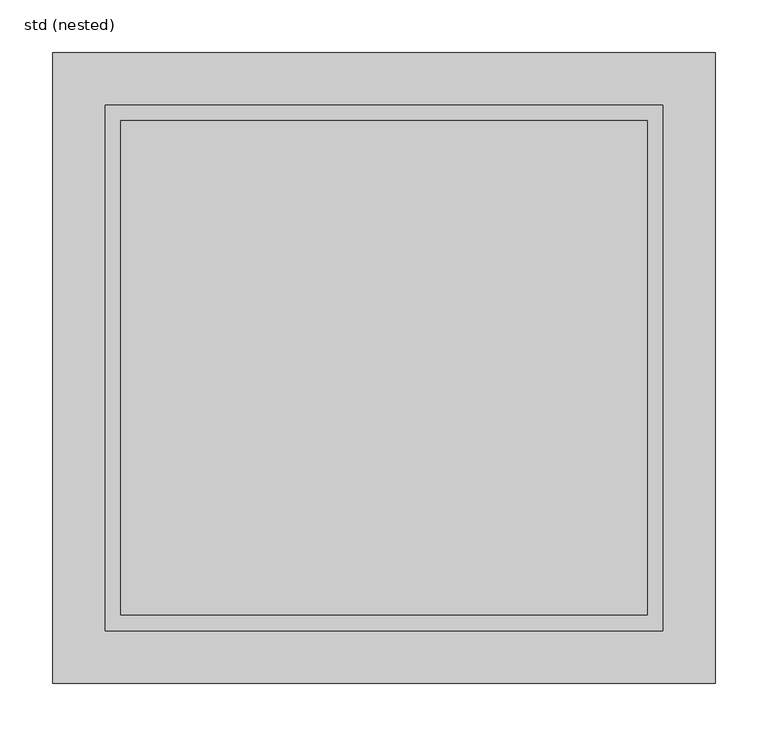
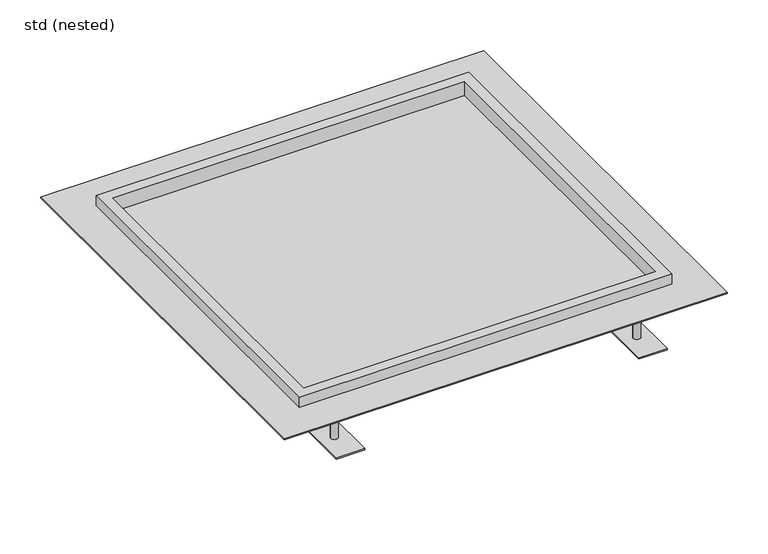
"""IFC4 building model written with IfcOpenShell, lengths in millimetres: sanitary terminal geometry, ZZZ_do not use_PF_ST_UN_custom hygienic box channel_ACO : std (nested)."""

from ifc_helpers import new_model, si_unit, point, frame, frame_2d, origin, place, context, project, spatial, polyline, circle_curve, trimmed, segment, composite_curve, outline, extrude, faceted_brep, source, transform, mapped, element, save
from ifc_brep_helpers import plane_surface, cylinder_surface, advanced_brep


def std_nested_4702d8b9(model_context):
    return source(origin(), model_context, "Body", "SolidModel", [
        extrude(outline(composite_curve([segment(polyline([(225.0, 232.5), (205.0, 232.5), (205.0, 250.0)]), True, "CONTINUOUS"), segment(trimmed(circle_curve(frame_2d((215.0, 250.0)), 10.0), [point((205.0, 250.0))], [point((225.0, 250.0))], False, "CARTESIAN"), True, "CONTINUOUS"), segment(polyline([(225.0, 250.0), (225.0, 232.5)]), True, "CONTINUOUS")], self_intersect=False), holes=[composite_curve([segment(trimmed(circle_curve(frame_2d((215.0, 250.0)), 5.0), [point((215.0, 245.0))], [point((215.0, 255.0))], True, "CARTESIAN"), True, "CONTINUOUS"), segment(trimmed(circle_curve(frame_2d((215.0, 250.0)), 5.0), [point((215.0, 255.0))], [point((215.0, 245.0))], True, "CARTESIAN"), True, "CONTINUOUS")], self_intersect=False)]), frame((0.0, 0.0, -37.0), z_axis=(0.0, 0.0, 1.0), x_axis=(1.0, 0.0, 0.0)), (0.0, 0.0, 1.0), 12.0),
        advanced_brep(
        [(210.0, 250.0, -31.0), (220.0, 250.0, -31.0), (235.0, 210.0, -79.5), (195.0, 210.0, -79.5), (195.0, 290.0, -79.5), (235.0, 290.0, -79.5), (220.0, 250.0, -77.5), (210.0, 250.0, -77.5), (235.0, 210.0, -77.5), (235.0, 290.0, -77.5), (195.0, 290.0, -77.5), (195.0, 210.0, -77.5)],
        [
            (0, 1, circle_curve(frame((215.0, 250.0, -31.0), z_axis=(0.0, 0.0, 1.0), x_axis=(1.0, 0.0, 0.0)), 5.0)),
            (1, 0, circle_curve(frame((215.0, 250.0, -31.0), z_axis=(0.0, 0.0, 1.0), x_axis=(1.0, 0.0, 0.0)), 5.0)),
            (2, 3),
            (3, 4),
            (4, 5),
            (5, 2),
            (1, 6),
            (6, 7, circle_curve(frame((215.0, 250.0, -77.5), z_axis=(0.0, 0.0, 1.0), x_axis=(1.0, 0.0, 0.0)), 5.0)),
            (7, 0),
            (7, 6, circle_curve(frame((215.0, 250.0, -77.5), z_axis=(0.0, 0.0, 1.0), x_axis=(1.0, 0.0, 0.0)), 5.0)),
            (8, 9),
            (9, 10),
            (10, 11),
            (11, 8),
            (11, 3),
            (2, 8),
            (10, 4),
            (9, 5),
        ],
        [
            plane_surface(frame((220.0, 250.0, -31.0), z_axis=(0.0, 0.0, 1.0), x_axis=(0.0, -1.0, 0.0))),
            plane_surface(frame((220.0, 250.0, -79.5), z_axis=(0.0, 0.0, -1.0), x_axis=(0.0, 1.0, 0.0))),
            cylinder_surface(frame((215.0, 250.0, -79.5), z_axis=(0.0, 0.0, 1.0), x_axis=(1.0, 0.0, 0.0)), 5.0),
            plane_surface(frame((195.0, 210.0, -77.5), z_axis=(0.0, 0.0, 1.0), x_axis=(-1.0, 0.0, 0.0))),
            plane_surface(frame((235.0, 210.0, -77.5), z_axis=(0.0, -1.0, 0.0), x_axis=(0.0, 0.0, -1.0))),
            plane_surface(frame((195.0, 210.0, -77.5), z_axis=(-1.0, 0.0, 0.0), x_axis=(0.0, 0.0, -1.0))),
            plane_surface(frame((195.0, 290.0, -77.5), z_axis=(0.0, 1.0, 0.0), x_axis=(0.0, 0.0, -1.0))),
            plane_surface(frame((235.0, 290.0, -77.5), z_axis=(1.0, 0.0, 0.0), x_axis=(0.0, 0.0, -1.0))),
        ],
        [
            (0, [[1, 2]]),
            (1, [[3, 4, 5, 6]]),
            (2, [[7, 8, 9, -2]]),
            (2, [[-9, 10, -7, -1]]),
            (3, [[11, 12, 13, 14], [-10, -8]]),
            (4, [[15, -3, 16, -14]]),
            (5, [[17, -4, -15, -13]]),
            (6, [[18, -5, -17, -12]]),
            (7, [[-16, -6, -18, -11]]),
        ],
    ),
        extrude(outline(polyline([(229.35, 224.5), (200.65, 224.5), (200.65, 232.5), (229.35, 232.5), (229.35, 224.5)])), frame((0.0, 0.0, -40.0), z_axis=(0.0, 0.0, 1.0), x_axis=(1.0, 0.0, 0.0)), (0.0, 0.0, 1.0), 18.0),
        extrude(outline(composite_curve([segment(polyline([(225.0, -232.5), (225.0, -250.0)]), True, "CONTINUOUS"), segment(trimmed(circle_curve(frame_2d((215.0, -250.0)), 10.0), [point((225.0, -250.0))], [point((205.0, -250.0))], False, "CARTESIAN"), True, "CONTINUOUS"), segment(polyline([(205.0, -250.0), (205.0, -232.5), (225.0, -232.5)]), True, "CONTINUOUS")], self_intersect=False), holes=[composite_curve([segment(trimmed(circle_curve(frame_2d((215.0, -250.0)), 5.0), [point((215.0, -245.0))], [point((215.0, -255.0))], True, "CARTESIAN"), True, "CONTINUOUS"), segment(trimmed(circle_curve(frame_2d((215.0, -250.0)), 5.0), [point((215.0, -255.0))], [point((215.0, -245.0))], True, "CARTESIAN"), True, "CONTINUOUS")], self_intersect=False)]), frame((0.0, 0.0, -37.0), z_axis=(0.0, 0.0, 1.0), x_axis=(1.0, 0.0, 0.0)), (0.0, 0.0, 1.0), 12.0),
        advanced_brep(
        [(210.0, -250.0, -31.0), (220.0, -250.0, -31.0), (235.0, -210.0, -79.5), (235.0, -290.0, -79.5), (195.0, -290.0, -79.5), (195.0, -210.0, -79.5), (210.0, -250.0, -77.5), (220.0, -250.0, -77.5), (235.0, -210.0, -77.5), (195.0, -210.0, -77.5), (195.0, -290.0, -77.5), (235.0, -290.0, -77.5)],
        [
            (0, 1, circle_curve(frame((215.0, -250.0, -31.0), z_axis=(0.0, 0.0, 1.0), x_axis=(1.0, 0.0, 0.0)), 5.0)),
            (1, 0, circle_curve(frame((215.0, -250.0, -31.0), z_axis=(0.0, 0.0, 1.0), x_axis=(1.0, 0.0, 0.0)), 5.0)),
            (2, 3),
            (3, 4),
            (4, 5),
            (5, 2),
            (0, 6),
            (6, 7, circle_curve(frame((215.0, -250.0, -77.5), z_axis=(0.0, 0.0, 1.0), x_axis=(1.0, 0.0, 0.0)), 5.0)),
            (7, 1),
            (7, 6, circle_curve(frame((215.0, -250.0, -77.5), z_axis=(0.0, 0.0, 1.0), x_axis=(1.0, 0.0, 0.0)), 5.0)),
            (8, 9),
            (9, 10),
            (10, 11),
            (11, 8),
            (8, 2),
            (5, 9),
            (4, 10),
            (3, 11),
        ],
        [
            plane_surface(frame((220.0, -250.0, -31.0), z_axis=(0.0, 0.0, 1.0), x_axis=(0.0, 1.0, 0.0))),
            plane_surface(frame((220.0, -250.0, -79.5), z_axis=(0.0, 0.0, -1.0), x_axis=(0.0, -1.0, 0.0))),
            cylinder_surface(frame((215.0, -250.0, -79.5), z_axis=(0.0, 0.0, 1.0), x_axis=(1.0, 0.0, 0.0)), 5.0),
            plane_surface(frame((195.0, -210.0, -77.5), z_axis=(0.0, 0.0, 1.0), x_axis=(-1.0, 0.0, 0.0))),
            plane_surface(frame((235.0, -210.0, -77.5), z_axis=(0.0, 1.0, 0.0), x_axis=(0.0, 0.0, -1.0))),
            plane_surface(frame((195.0, -210.0, -77.5), z_axis=(-1.0, 0.0, 0.0), x_axis=(0.0, 0.0, -1.0))),
            plane_surface(frame((195.0, -290.0, -77.5), z_axis=(0.0, -1.0, 0.0), x_axis=(0.0, 0.0, -1.0))),
            plane_surface(frame((235.0, -290.0, -77.5), z_axis=(1.0, 0.0, 0.0), x_axis=(0.0, 0.0, -1.0))),
        ],
        [
            (0, [[1, 2]]),
            (1, [[3, 4, 5, 6]]),
            (2, [[-1, 7, 8, 9]]),
            (2, [[-2, -9, 10, -7]]),
            (3, [[11, 12, 13, 14], [-8, -10]]),
            (4, [[-11, 15, -6, 16]]),
            (5, [[-12, -16, -5, 17]]),
            (6, [[-13, -17, -4, 18]]),
            (7, [[-14, -18, -3, -15]]),
        ],
    ),
        extrude(outline(polyline([(229.35, -224.5), (229.35, -232.5), (200.65, -232.5), (200.65, -224.5), (229.35, -224.5)])), frame((0.0, 0.0, -40.0), z_axis=(0.0, 0.0, 1.0), x_axis=(1.0, 0.0, 0.0)), (0.0, 0.0, 1.0), 18.0),
        extrude(outline(composite_curve([segment(polyline([(-205.0, 232.5), (-225.0, 232.5), (-225.0, 250.0)]), True, "CONTINUOUS"), segment(trimmed(circle_curve(frame_2d((-215.0, 250.0)), 10.0), [point((-225.0, 250.0))], [point((-205.0, 250.0))], False, "CARTESIAN"), True, "CONTINUOUS"), segment(polyline([(-205.0, 250.0), (-205.0, 232.5)]), True, "CONTINUOUS")], self_intersect=False), holes=[composite_curve([segment(trimmed(circle_curve(frame_2d((-215.0, 250.0)), 5.0), [point((-215.0, 245.0))], [point((-215.0, 255.0))], True, "CARTESIAN"), True, "CONTINUOUS"), segment(trimmed(circle_curve(frame_2d((-215.0, 250.0)), 5.0), [point((-215.0, 255.0))], [point((-215.0, 245.0))], True, "CARTESIAN"), True, "CONTINUOUS")], self_intersect=False)]), frame((0.0, 0.0, -37.0), z_axis=(0.0, 0.0, 1.0), x_axis=(1.0, 0.0, 0.0)), (0.0, 0.0, 1.0), 12.0),
        advanced_brep(
        [(-220.0, 250.0, -31.0), (-210.0, 250.0, -31.0), (-195.0, 210.0, -79.5), (-235.0, 210.0, -79.5), (-235.0, 290.0, -79.5), (-195.0, 290.0, -79.5), (-210.0, 250.0, -77.5), (-220.0, 250.0, -77.5), (-195.0, 210.0, -77.5), (-195.0, 290.0, -77.5), (-235.0, 290.0, -77.5), (-235.0, 210.0, -77.5)],
        [
            (0, 1, circle_curve(frame((-215.0, 250.0, -31.0), z_axis=(0.0, 0.0, 1.0), x_axis=(1.0, 0.0, 0.0)), 5.0)),
            (1, 0, circle_curve(frame((-215.0, 250.0, -31.0), z_axis=(0.0, 0.0, 1.0), x_axis=(1.0, 0.0, 0.0)), 5.0)),
            (2, 3),
            (3, 4),
            (4, 5),
            (5, 2),
            (1, 6),
            (6, 7, circle_curve(frame((-215.0, 250.0, -77.5), z_axis=(0.0, 0.0, 1.0), x_axis=(1.0, 0.0, 0.0)), 5.0)),
            (7, 0),
            (7, 6, circle_curve(frame((-215.0, 250.0, -77.5), z_axis=(0.0, 0.0, 1.0), x_axis=(1.0, 0.0, 0.0)), 5.0)),
            (8, 9),
            (9, 10),
            (10, 11),
            (11, 8),
            (11, 3),
            (2, 8),
            (10, 4),
            (9, 5),
        ],
        [
            plane_surface(frame((-210.0, 250.0, -31.0), z_axis=(0.0, 0.0, 1.0), x_axis=(0.0, -1.0, 0.0))),
            plane_surface(frame((-210.0, 250.0, -79.5), z_axis=(0.0, 0.0, -1.0), x_axis=(0.0, 1.0, 0.0))),
            cylinder_surface(frame((-215.0, 250.0, -79.5), z_axis=(0.0, 0.0, 1.0), x_axis=(1.0, 0.0, 0.0)), 5.0),
            plane_surface(frame((-235.0, 210.0, -77.5), z_axis=(0.0, 0.0, 1.0), x_axis=(-1.0, 0.0, 0.0))),
            plane_surface(frame((-195.0, 210.0, -77.5), z_axis=(0.0, -1.0, 0.0), x_axis=(0.0, 0.0, -1.0))),
            plane_surface(frame((-235.0, 210.0, -77.5), z_axis=(-1.0, 0.0, 0.0), x_axis=(0.0, 0.0, -1.0))),
            plane_surface(frame((-235.0, 290.0, -77.5), z_axis=(0.0, 1.0, 0.0), x_axis=(0.0, 0.0, -1.0))),
            plane_surface(frame((-195.0, 290.0, -77.5), z_axis=(1.0, 0.0, 0.0), x_axis=(0.0, 0.0, -1.0))),
        ],
        [
            (0, [[1, 2]]),
            (1, [[3, 4, 5, 6]]),
            (2, [[7, 8, 9, -2]]),
            (2, [[-9, 10, -7, -1]]),
            (3, [[11, 12, 13, 14], [-10, -8]]),
            (4, [[15, -3, 16, -14]]),
            (5, [[17, -4, -15, -13]]),
            (6, [[18, -5, -17, -12]]),
            (7, [[-16, -6, -18, -11]]),
        ],
    ),
        extrude(outline(polyline([(-200.65, 224.5), (-229.35, 224.5), (-229.35, 232.5), (-200.65, 232.5), (-200.65, 224.5)])), frame((0.0, 0.0, -40.0), z_axis=(0.0, 0.0, 1.0), x_axis=(1.0, 0.0, 0.0)), (0.0, 0.0, 1.0), 18.0),
        extrude(outline(composite_curve([segment(polyline([(-205.0, -232.5), (-205.0, -250.0)]), True, "CONTINUOUS"), segment(trimmed(circle_curve(frame_2d((-215.0, -250.0)), 10.0), [point((-205.0, -250.0))], [point((-225.0, -250.0))], False, "CARTESIAN"), True, "CONTINUOUS"), segment(polyline([(-225.0, -250.0), (-225.0, -232.5), (-205.0, -232.5)]), True, "CONTINUOUS")], self_intersect=False), holes=[composite_curve([segment(trimmed(circle_curve(frame_2d((-215.0, -250.0)), 5.0), [point((-215.0, -245.0))], [point((-215.0, -255.0))], True, "CARTESIAN"), True, "CONTINUOUS"), segment(trimmed(circle_curve(frame_2d((-215.0, -250.0)), 5.0), [point((-215.0, -255.0))], [point((-215.0, -245.0))], True, "CARTESIAN"), True, "CONTINUOUS")], self_intersect=False)]), frame((0.0, 0.0, -37.0), z_axis=(0.0, 0.0, 1.0), x_axis=(1.0, 0.0, 0.0)), (0.0, 0.0, 1.0), 12.0),
        advanced_brep(
        [(-220.0, -250.0, -31.0), (-210.0, -250.0, -31.0), (-195.0, -210.0, -79.5), (-195.0, -290.0, -79.5), (-235.0, -290.0, -79.5), (-235.0, -210.0, -79.5), (-220.0, -250.0, -77.5), (-210.0, -250.0, -77.5), (-195.0, -210.0, -77.5), (-235.0, -210.0, -77.5), (-235.0, -290.0, -77.5), (-195.0, -290.0, -77.5)],
        [
            (0, 1, circle_curve(frame((-215.0, -250.0, -31.0), z_axis=(0.0, 0.0, 1.0), x_axis=(1.0, 0.0, 0.0)), 5.0)),
            (1, 0, circle_curve(frame((-215.0, -250.0, -31.0), z_axis=(0.0, 0.0, 1.0), x_axis=(1.0, 0.0, 0.0)), 5.0)),
            (2, 3),
            (3, 4),
            (4, 5),
            (5, 2),
            (0, 6),
            (6, 7, circle_curve(frame((-215.0, -250.0, -77.5), z_axis=(0.0, 0.0, 1.0), x_axis=(1.0, 0.0, 0.0)), 5.0)),
            (7, 1),
            (7, 6, circle_curve(frame((-215.0, -250.0, -77.5), z_axis=(0.0, 0.0, 1.0), x_axis=(1.0, 0.0, 0.0)), 5.0)),
            (8, 9),
            (9, 10),
            (10, 11),
            (11, 8),
            (8, 2),
            (5, 9),
            (4, 10),
            (3, 11),
        ],
        [
            plane_surface(frame((-210.0, -250.0, -31.0), z_axis=(0.0, 0.0, 1.0), x_axis=(0.0, 1.0, 0.0))),
            plane_surface(frame((-210.0, -250.0, -79.5), z_axis=(0.0, 0.0, -1.0), x_axis=(0.0, -1.0, 0.0))),
            cylinder_surface(frame((-215.0, -250.0, -79.5), z_axis=(0.0, 0.0, 1.0), x_axis=(1.0, 0.0, 0.0)), 5.0),
            plane_surface(frame((-235.0, -210.0, -77.5), z_axis=(0.0, 0.0, 1.0), x_axis=(-1.0, 0.0, 0.0))),
            plane_surface(frame((-195.0, -210.0, -77.5), z_axis=(0.0, 1.0, 0.0), x_axis=(0.0, 0.0, -1.0))),
            plane_surface(frame((-235.0, -210.0, -77.5), z_axis=(-1.0, 0.0, 0.0), x_axis=(0.0, 0.0, -1.0))),
            plane_surface(frame((-235.0, -290.0, -77.5), z_axis=(0.0, -1.0, 0.0), x_axis=(0.0, 0.0, -1.0))),
            plane_surface(frame((-195.0, -290.0, -77.5), z_axis=(1.0, 0.0, 0.0), x_axis=(0.0, 0.0, -1.0))),
        ],
        [
            (0, [[1, 2]]),
            (1, [[3, 4, 5, 6]]),
            (2, [[-1, 7, 8, 9]]),
            (2, [[-2, -9, 10, -7]]),
            (3, [[11, 12, 13, 14], [-8, -10]]),
            (4, [[-11, 15, -6, 16]]),
            (5, [[-12, -16, -5, 17]]),
            (6, [[-13, -17, -4, 18]]),
            (7, [[-14, -18, -3, -15]]),
        ],
    ),
        extrude(outline(polyline([(-200.65, -224.5), (-200.65, -232.5), (-229.35, -232.5), (-229.35, -224.5), (-200.65, -224.5)])), frame((0.0, 0.0, -40.0), z_axis=(0.0, 0.0, 1.0), x_axis=(1.0, 0.0, 0.0)), (0.0, 0.0, 1.0), 18.0),
        faceted_brep([(-250.0, 235.0, -22.0), (-250.0, 235.0, -20.5), (250.0, 235.0, -20.5), (250.0, 235.0, -22.0), (-250.0, -235.0, -20.5), (250.0, -235.0, -20.5), (-250.0, -235.0, -22.0), (250.0, -235.0, -22.0), (-250.0, -226.0, -22.0), (250.0, -226.0, -22.0), (250.0, 226.0, -22.0), (-250.0, 226.0, -22.0), (82.5, -226.0, -57.5), (236.5, -226.0, -50.0), (251.5, -226.0, -50.0), (251.5, -226.0, -22.0), (-251.5, -226.0, -22.0), (-251.5, -226.0, -50.0), (-236.5, -226.0, -50.0), (-82.5, -226.0, -57.5), (82.5, 226.0, -57.5), (236.5, 226.0, -50.0), (-82.5, 226.0, -57.5), (-236.5, 226.0, -50.0), (-251.5, 226.0, -50.0), (-251.5, 226.0, -22.0), (251.5, 226.0, -22.0), (251.5, 226.0, -50.0)], [[[0, 1, 2, 3]], [[1, 4, 5, 2]], [[4, 6, 7, 5]], [[6, 8, 9, 7]], [[10, 11, 0, 3]], [[12, 13, 14, 15, 9, 8, 16, 17, 18, 19]], [[13, 12, 20, 21]], [[21, 20, 22, 23, 24, 25, 11, 10, 26, 27]], [[22, 20, 12, 19]], [[19, 18, 23, 22]], [[24, 17, 16, 25]], [[25, 16, 8, 11]], [[17, 24, 23, 18]], [[4, 1, 0, 11, 8, 6]], [[5, 7, 9, 10, 3, 2]], [[26, 15, 14, 27]], [[15, 26, 10, 9]], [[27, 14, 13, 21]]]),
        faceted_brep([(265.0, 250.0, -15.0), (265.0, 250.0, 0.0), (265.0, -250.0, 0.0), (265.0, -250.0, -15.0), (315.0, 300.0, -16.5), (315.0, 300.0, -15.0), (315.0, -300.0, -15.0), (315.0, -300.0, -16.5), (263.5, 248.5, -1.5), (263.5, 248.5, -16.5), (263.5, -248.5, -16.5), (263.5, -248.5, -1.5), (251.5, 236.5, -22.0), (251.5, 236.5, -1.5), (251.5, -236.5, -1.5), (251.5, -236.5, -22.0), (250.0, 235.0, 0.0), (250.0, 235.0, -22.0), (250.0, -235.0, -22.0), (250.0, -235.0, 0.0), (-265.0, -250.0, 0.0), (-265.0, -250.0, -15.0), (-315.0, -300.0, -15.0), (-315.0, -300.0, -16.5), (-263.5, -248.5, -16.5), (-263.5, -248.5, -1.5), (-251.5, -236.5, -1.5), (-251.5, -236.5, -22.0), (-250.0, -235.0, -22.0), (-250.0, -235.0, 0.0), (-265.0, 250.0, 0.0), (-265.0, 250.0, -15.0), (-315.0, 300.0, -15.0), (-315.0, 300.0, -16.5), (-263.5, 248.5, -16.5), (-263.5, 248.5, -1.5), (-251.5, 236.5, -1.5), (-251.5, 236.5, -22.0), (-250.0, 235.0, -22.0), (-250.0, 235.0, 0.0)], [[[0, 1, 2, 3]], [[4, 5, 6, 7]], [[8, 9, 10, 11]], [[12, 13, 14, 15]], [[16, 17, 18, 19]], [[3, 2, 20, 21]], [[7, 6, 22, 23]], [[11, 10, 24, 25]], [[15, 14, 26, 27]], [[19, 18, 28, 29]], [[21, 20, 30, 31]], [[23, 22, 32, 33]], [[25, 24, 34, 35]], [[27, 26, 36, 37]], [[29, 28, 38, 39]], [[31, 30, 1, 0]], [[5, 32, 22, 6], [3, 21, 31, 0]], [[33, 32, 5, 4]], [[7, 23, 33, 4], [9, 34, 24, 10]], [[35, 34, 9, 8]], [[11, 25, 35, 8], [13, 36, 26, 14]], [[37, 36, 13, 12]], [[15, 27, 37, 12], [17, 38, 28, 18]], [[39, 38, 17, 16]], [[1, 30, 20, 2], [19, 29, 39, 16]]]),
        advanced_brep(
        [(-71.3, 0.0, -126.5), (71.3, 0.0, -126.5), (0.0, 0.0, -126.5), (-71.3, 0.0, -65.0), (71.3, 0.0, -65.0), (-82.5, 0.0, -65.0), (82.5, 0.0, -65.0), (-82.5, 0.0, -57.5), (82.5, 0.0, -57.5), (0.0, 0.0, -57.5)],
        [
            (0, 1, circle_curve(frame((0.0, 0.0, -126.5), z_axis=(0.0, 0.0, -1.0), x_axis=(1.0, 0.0, 0.0)), 71.3)),
            (1, 2),
            (2, 0),
            (1, 0, circle_curve(frame((0.0, 0.0, -126.5), z_axis=(0.0, 0.0, -1.0), x_axis=(1.0, 0.0, 0.0)), 71.3)),
            (3, 4, circle_curve(frame((0.0, 0.0, -65.0), z_axis=(0.0, 0.0, -1.0), x_axis=(1.0, 0.0, 0.0)), 71.3)),
            (4, 1),
            (0, 3),
            (4, 3, circle_curve(frame((0.0, 0.0, -65.0), z_axis=(0.0, 0.0, -1.0), x_axis=(1.0, 0.0, 0.0)), 71.3)),
            (5, 6, circle_curve(frame((0.0, 0.0, -65.0), z_axis=(0.0, 0.0, -1.0), x_axis=(1.0, 0.0, 0.0)), 82.5)),
            (6, 4),
            (3, 5),
            (6, 5, circle_curve(frame((0.0, 0.0, -65.0), z_axis=(0.0, 0.0, -1.0), x_axis=(1.0, 0.0, 0.0)), 82.5)),
            (7, 8, circle_curve(frame((0.0, 0.0, -57.5), z_axis=(0.0, 0.0, -1.0), x_axis=(1.0, 0.0, 0.0)), 82.5)),
            (8, 6),
            (5, 7),
            (8, 7, circle_curve(frame((0.0, 0.0, -57.5), z_axis=(0.0, 0.0, -1.0), x_axis=(1.0, 0.0, 0.0)), 82.5)),
            (9, 8),
            (7, 9),
        ],
        [
            plane_surface(frame((0.0, 0.0, -126.5), z_axis=(0.0, 0.0, -1.0), x_axis=(1.0, 0.0, 0.0))),
            cylinder_surface(frame((0.0, 0.0, -135.0), z_axis=(0.0, 0.0, 1.0), x_axis=(1.0, 0.0, 0.0)), 71.3),
            plane_surface(frame((0.0, 0.0, -65.0), z_axis=(0.0, 0.0, -1.0), x_axis=(1.0, 0.0, 0.0))),
            cylinder_surface(frame((0.0, 0.0, -135.0), z_axis=(0.0, 0.0, 1.0), x_axis=(1.0, 0.0, 0.0)), 82.5),
            plane_surface(frame((0.0, 0.0, -57.5), z_axis=(0.0, 0.0, 1.0), x_axis=(1.0, 0.0, 0.0))),
        ],
        [
            (0, [[1, 2, 3]]),
            (0, [[4, -3, -2]]),
            (1, [[5, 6, -1, 7]]),
            (1, [[8, -7, -4, -6]]),
            (2, [[9, 10, -5, 11]]),
            (2, [[12, -11, -8, -10]]),
            (3, [[13, 14, -9, 15]]),
            (3, [[16, -15, -12, -14]]),
            (4, [[17, -13, 18]]),
            (4, [[-18, -16, -17]]),
        ],
    ),
    ])


if __name__ == "__main__":
    model = new_model("IFC4")
    model_context = context("Model", 3, world=origin())
    ifc_project = project(units=[si_unit("LENGTHUNIT", "METRE", prefix="MILLI")], contexts=[model_context])
    site = spatial("IfcSite", under=ifc_project)
    building = spatial("IfcBuilding", under=site)
    placement = place(None, origin())
    std_nested_shape = std_nested_4702d8b9(model_context)
    element("IfcSanitaryTerminal", 1, ObjectType="ZZZ_do not use_PF_ST_UN_custom hygienic box channel_ACO : std (nested)", at=placement, inside=building, context=model_context, shape_type="MappedRepresentation", body=[
        mapped(std_nested_shape, transform((0.0, 0.0, 0.0), x_axis=(1.0, 0.0, 0.0), y_axis=(0.0, 1.0, 0.0), z_axis=(0.0, 0.0, 1.0))),
    ])
    save(model, "model.ifc")
